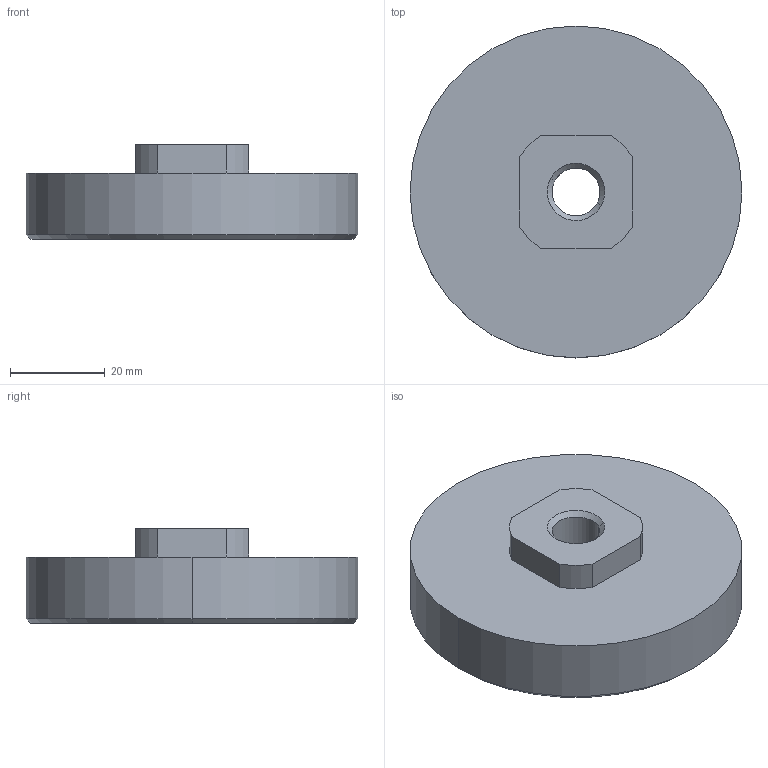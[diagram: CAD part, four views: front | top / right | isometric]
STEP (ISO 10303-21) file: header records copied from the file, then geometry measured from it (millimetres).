
FILE_DESCRIPTION(('CATIA V5 STEP Exchange'),'2;1');
FILE_NAME('D:\孙国\气囊类\2.0小气囊\STP\扣合工装\GZ-DH 挡环.stp','2025-04-17T06:21:00+00:00',('none'),('none'),'CATIA Version 5 Release 20 GA (IN-10)','CATIA V5 STEP AP214','none');
FILE_SCHEMA(('AUTOMOTIVE_DESIGN { 1 0 10303 214 1 1 1 1 }'));
Length unit declared in the file: millimetre
Products named in the file (1): 挡块
Bounding box: 70 x 70 x 20 mm (x, y, z)
Volume: 27806.7 mm3; surface area: 13071.4 mm2
Topology: 1 solids, 1 shells, 24 faces, 54 edges, 34 vertices
Faces by surface type: cylinder 10, plane 8, cone 6
Entity records: 646 total; most frequent: ORIENTED_EDGE 108, CARTESIAN_POINT 107, DIRECTION 90, EDGE_CURVE 54, AXIS2_PLACEMENT_3D 45, VERTEX_POINT 34, VECTOR 28, EDGE_LOOP 28
